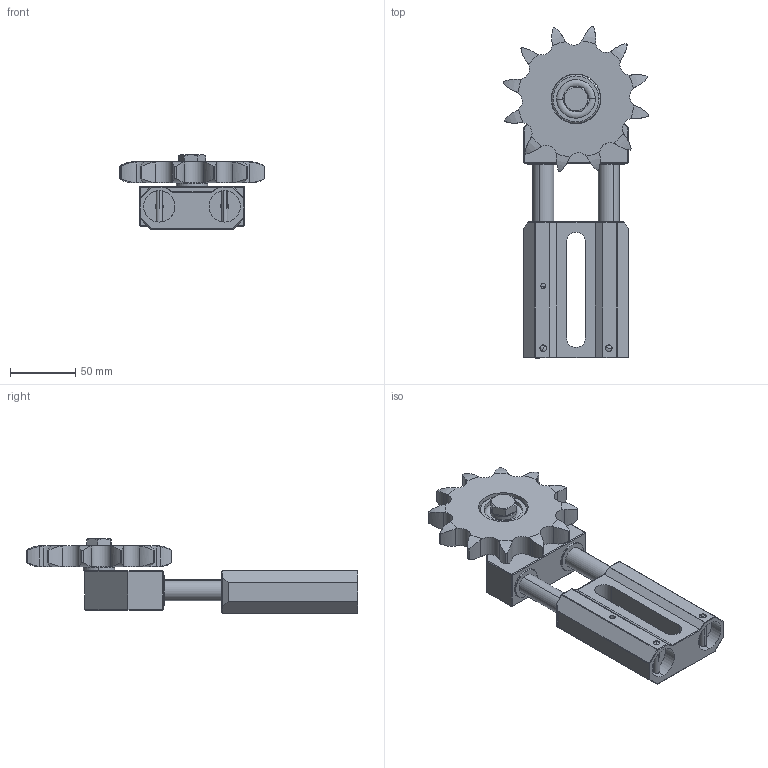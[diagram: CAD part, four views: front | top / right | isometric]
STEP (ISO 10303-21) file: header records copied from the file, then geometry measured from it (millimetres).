
FILE_DESCRIPTION (( 'STEP AP203' ), '1' );
FILE_NAME ('ASR3 1S cod.94023251.STEP', '2018-05-14T12:52:07', ( '' ), ( '' ), 'SwSTEP 2.0', 'SolidWorks 2016', '' );
FILE_SCHEMA (( 'CONFIG_CONTROL_DESIGN' ));
Length unit declared in the file: millimetre
Products named in the file (14): R 1 M12 cod. 94062501_Montaggio; ASR3 1S cod.94023251; Washer ISO 7089 - 12_Washer ISO 7089 - 12; ISO 4017 - M12 x 40-N_ISO 4017 - M12 x 40-N; Rondella 23.5X13X2.6 (SOTTOTESTA); SKF - 6301 - 8,SI,NC,8_68_SKF - 6301 - 8,SI,NC,8_68; Chain wheel ISO - 12Z 16B-1 --12SA38.0N_Chain wheel ISO - 12Z 16B-1 --12SA38.0N; Testa AS 3 - M12-2016; AS3 M12 cod. 94023012N; Boccola CP 16X18X20; rondella 24X6.3X2 (CONTROSPINA); Colonetta AS3 comm.; SPINA ISO 8745-M5x32-St_SPINA ISO 8745-M5x32-St; AS 3-Base
Assembly tree (19 placements, depth 3):
  ASR3 1S cod.94023251
    AS3 M12 cod. 94023012N
      AS 3-Base
      Boccola CP 16X18X20  x2
      Colonetta AS3 comm.  x2
      Rondella 23.5X13X2.6 (SOTTOTESTA)  x2
      Testa AS 3 - M12-2016
      rondella 24X6.3X2 (CONTROSPINA)  x2
      SPINA ISO 8745-M5x32-St_SPINA ISO 8745-M5x32-St  x2
    R 1 M12 cod. 94062501_Montaggio
      Chain wheel ISO - 12Z 16B-1 --12SA38.0N_Chain wheel ISO - 12Z 16B-1 --12SA38.0N
      SKF - 6301 - 8,SI,NC,8_68_SKF - 6301 - 8,SI,NC,8_68
    ISO 4017 - M12 x 40-N_ISO 4017 - M12 x 40-N
    Washer ISO 7089 - 12_Washer ISO 7089 - 12  x2
Bounding box: 111.44 x 253.72 x 57 mm (x, y, z)
Volume: 393801.5 mm3; surface area: 113731 mm2
Topology: 17 solids, 17 shells, 418 faces, 994 edges, 592 vertices
Faces by surface type: cylinder 211, plane 91, torus 56, sphere 36, cone 24
Entity records: 12633 total; most frequent: CARTESIAN_POINT 2731, DIRECTION 1829, ORIENTED_EDGE 1682, EDGE_CURVE 841, AXIS2_PLACEMENT_3D 768, VERTEX_POINT 512, EDGE_LOOP 395, CIRCLE 386
